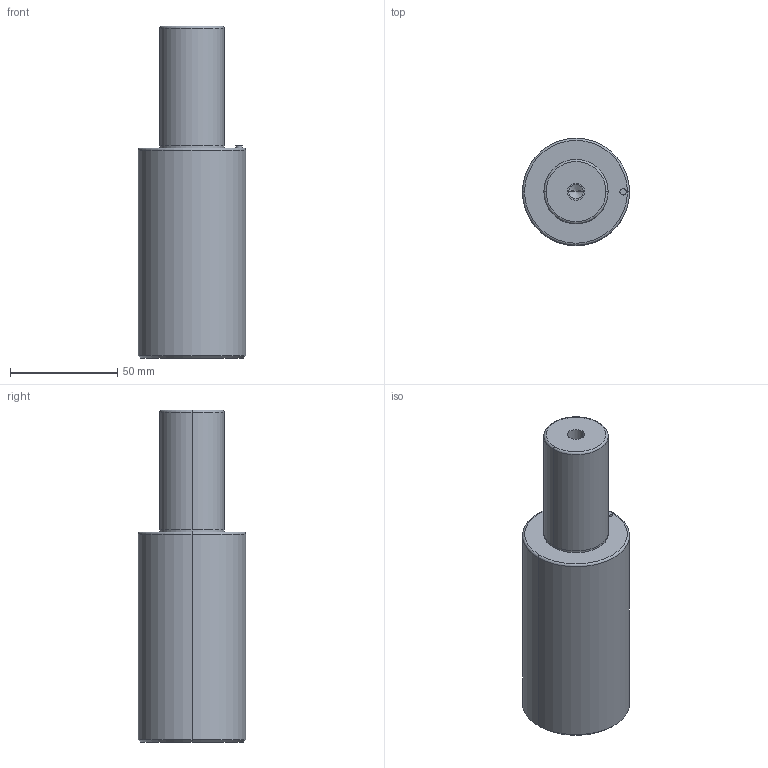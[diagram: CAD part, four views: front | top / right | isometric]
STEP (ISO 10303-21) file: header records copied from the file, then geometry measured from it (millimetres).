
FILE_DESCRIPTION(/* description */ (''),/* implementation_level */ '2;1');
FILE_NAME(/* name */ '3d_gsc50-56_03836_r00.stp',/* time_stamp */ '2011-01-10T14:15:21+09:00',/* author */ ('MISUMI'),/* organization */ (''),/* preprocessor_version */ 'ST-DEVELOPER v11',/* originating_system */ 'UGS - NX 5.0',/* authorisation */ '');
FILE_SCHEMA (('CONFIG_CONTROL_DESIGN'));
Length unit declared in the file: millimetre
Products named in the file (1): 3d_gsc50-56_03836_r00
Bounding box: 50 x 50 x 155 mm (x, y, z)
Volume: 230601.6 mm3; surface area: 25385.5 mm2
Topology: 1 solids, 1 shells, 32 faces, 66 edges, 38 vertices
Faces by surface type: cylinder 16, cone 6, plane 6, torus 4
Entity records: 912 total; most frequent: DIRECTION 168, CARTESIAN_POINT 133, ORIENTED_EDGE 124, AXIS2_PLACEMENT_3D 73, EDGE_CURVE 62, CIRCLE 40, EDGE_LOOP 38, VERTEX_POINT 38
